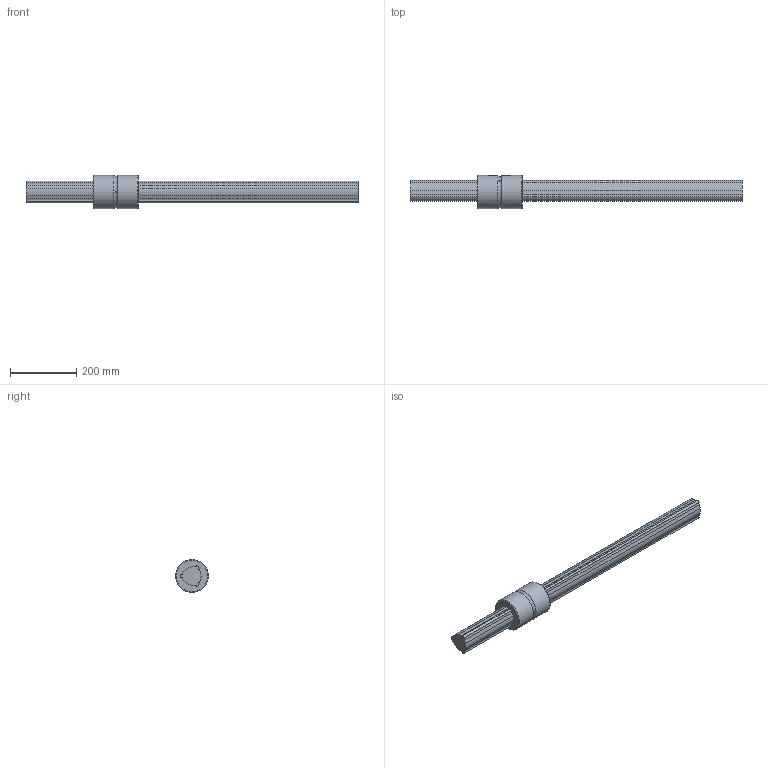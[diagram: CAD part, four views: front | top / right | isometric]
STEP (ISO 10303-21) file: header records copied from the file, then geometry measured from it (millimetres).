
FILE_DESCRIPTION(/* description */ ('STEP AP214'),/* implementation_level */ '2;1');
FILE_NAME(/* name */ 'LBST70+1000L(135202.50)',/* time_stamp */ '2024-09-04T12:56:26+02:00',/* author */ ('License CC BY-ND 4.0'),/* organization */ ('CADENAS'),/* preprocessor_version */ 'ST-DEVELOPER v19.3',/* originating_system */ 'PARTsolutions',/* authorisation */ ' ');
FILE_SCHEMA (('AUTOMOTIVE_DESIGN {1 0 10303 214 3 1 1}'));
Length unit declared in the file: millimetre
Products named in the file (3): LBST70+1000L(135202.50); LBST7011000 Spline Shaft; LBST70 Nut
Assembly tree (2 placements, depth 2):
  LBST70+1000L(135202.50)
    LBST7011000 Spline Shaft
    LBST70 Nut
Bounding box: 1000 x 100 x 100 mm (x, y, z)
Volume: 3324256.9 mm3; surface area: 290555.9 mm2
Topology: 3 solids, 3 shells, 57 faces, 148 edges, 99 vertices
Faces by surface type: cylinder 31, plane 22, torus 4
Full cylindrical faces by diameter (mm): 4 x3, 100 x2
Entity records: 1806 total; most frequent: CARTESIAN_POINT 351, DIRECTION 306, ORIENTED_EDGE 272, EDGE_CURVE 136, AXIS2_PLACEMENT_3D 118, VERTEX_POINT 94, LINE 70, VECTOR 70
